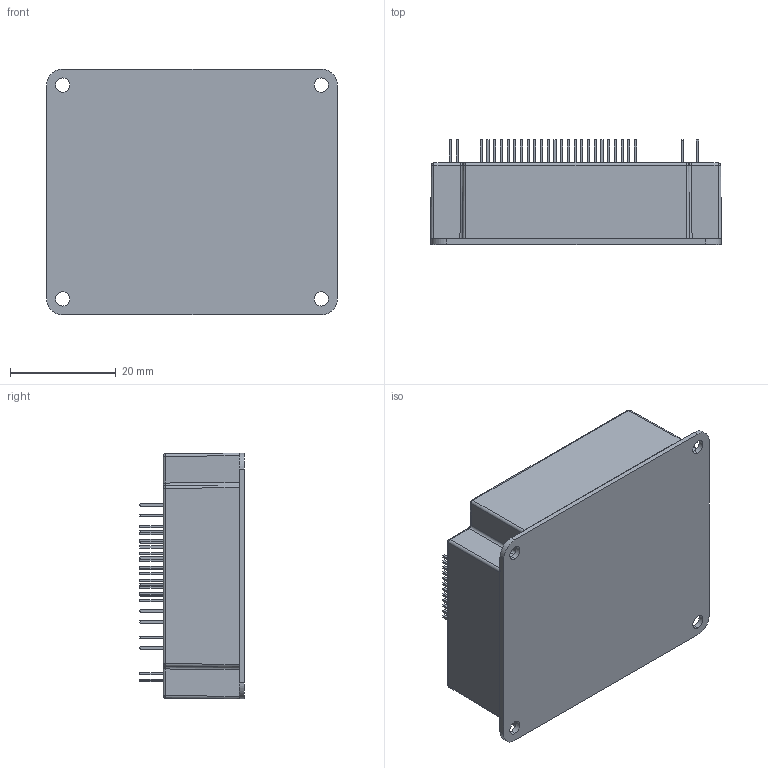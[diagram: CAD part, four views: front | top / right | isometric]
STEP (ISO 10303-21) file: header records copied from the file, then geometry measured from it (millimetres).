
FILE_DESCRIPTION (( 'STEP AP203' ), '1' );
FILE_NAME ('gold-whistle.STEP', '2014-03-11T12:12:48', ( 'YAEL' ), ( 'Microsoft' ), 'SwSTEP 2.0', 'SolidWorks 2013', '' );
FILE_SCHEMA (( 'CONFIG_CONTROL_DESIGN' ));
Products named in the file (1): gold-whistle
Bounding box: 55.04 x 19.83 x 46.54 mm (x, y, z)
Volume: 11355.6 mm3; surface area: 18188.5 mm2
Topology: 11 solids, 11 shells, 1653 faces, 4198 edges, 2766 vertices
Faces by surface type: plane 1541, cylinder 96, bspline 16
Entity records: 50410 total; most frequent: CARTESIAN_POINT 10335, ORIENTED_EDGE 8396, DIRECTION 7393, EDGE_CURVE 4198, VECTOR 3897, LINE 3897, VERTEX_POINT 2766, EDGE_LOOP 2044
